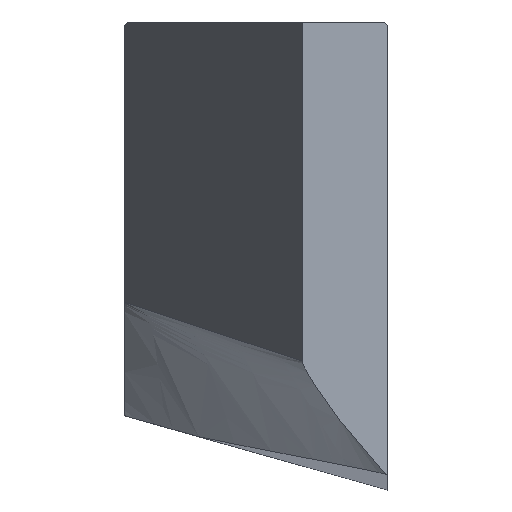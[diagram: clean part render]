
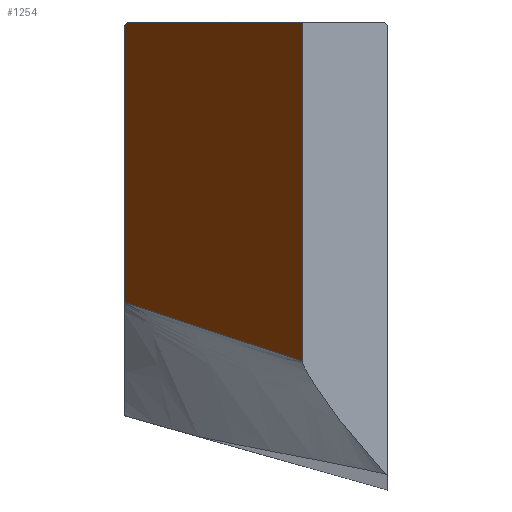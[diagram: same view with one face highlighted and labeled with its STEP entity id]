
A CAD part, front view. The second image highlights one B-rep face of the part: STEP entity #1254.
In plain terms, the highlighted planar face has unit normal (-0.909, -0.417, 0).
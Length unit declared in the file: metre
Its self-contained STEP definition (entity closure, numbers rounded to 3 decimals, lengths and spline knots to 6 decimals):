
#142=ORIENTED_EDGE('',*,*,#524,.F.);
#143=ORIENTED_EDGE('',*,*,#525,.F.);
#144=ORIENTED_EDGE('',*,*,#526,.T.);
#145=ORIENTED_EDGE('',*,*,#527,.T.);
#146=ORIENTED_EDGE('',*,*,#528,.F.);
#524=EDGE_CURVE('',#715,#716,#844,.T.);
#525=EDGE_CURVE('',#717,#715,#845,.T.);
#526=EDGE_CURVE('',#717,#718,#846,.T.);
#527=EDGE_CURVE('',#718,#719,#847,.T.);
#528=EDGE_CURVE('',#716,#719,#848,.T.);
#715=VERTEX_POINT('',#1772);
#716=VERTEX_POINT('',#1773);
#717=VERTEX_POINT('',#1775);
#718=VERTEX_POINT('',#1777);
#719=VERTEX_POINT('',#1779);
#844=LINE('',#1771,#943);
#845=LINE('',#1774,#944);
#846=LINE('',#1776,#945);
#847=LINE('',#1778,#946);
#848=LINE('',#1780,#947);
#943=VECTOR('',#1454,1.);
#944=VECTOR('',#1455,1.);
#945=VECTOR('',#1456,1.);
#946=VECTOR('',#1457,1.);
#947=VECTOR('',#1458,1.);
#1042=EDGE_LOOP('',(#142,#143,#144,#145,#146));
#1130=FACE_BOUND('',#1042,.T.);
#1218=PLANE('',#1341);
#1254=ADVANCED_FACE('',(#1130),#1218,.F.);
#1341=AXIS2_PLACEMENT_3D('',#1770,#1452,#1453);
#1452=DIRECTION('',(0.909,0.417,0.));
#1453=DIRECTION('',(-0.417,0.909,0.));
#1454=DIRECTION('',(0.385,-0.839,0.385));
#1455=DIRECTION('',(0.,0.,1.));
#1456=DIRECTION('',(0.413,-0.9,-0.137));
#1457=DIRECTION('',(0.,0.,1.));
#1458=DIRECTION('',(0.417,-0.909,0.));
#1770=CARTESIAN_POINT('',(0.0735,0.26225,-1.147248));
#1771=CARTESIAN_POINT('',(-0.098122,0.636386,-0.160011));
#1772=CARTESIAN_POINT('',(0.061,0.2895,-0.000889));
#1773=CARTESIAN_POINT('',(0.061445,0.288531,-0.000445));
#1774=CARTESIAN_POINT('',(0.061,0.2895,-0.039889));
#1775=CARTESIAN_POINT('',(0.061,0.2895,-0.039889));
#1776=CARTESIAN_POINT('',(0.061,0.2895,-0.039889));
#1777=CARTESIAN_POINT('',(0.086,0.235,-0.048202));
#1778=CARTESIAN_POINT('',(0.086,0.235,-0.048202));
#1779=CARTESIAN_POINT('',(0.086,0.235,-0.000445));
#1780=CARTESIAN_POINT('',(0.0735,0.26225,-0.000444));
